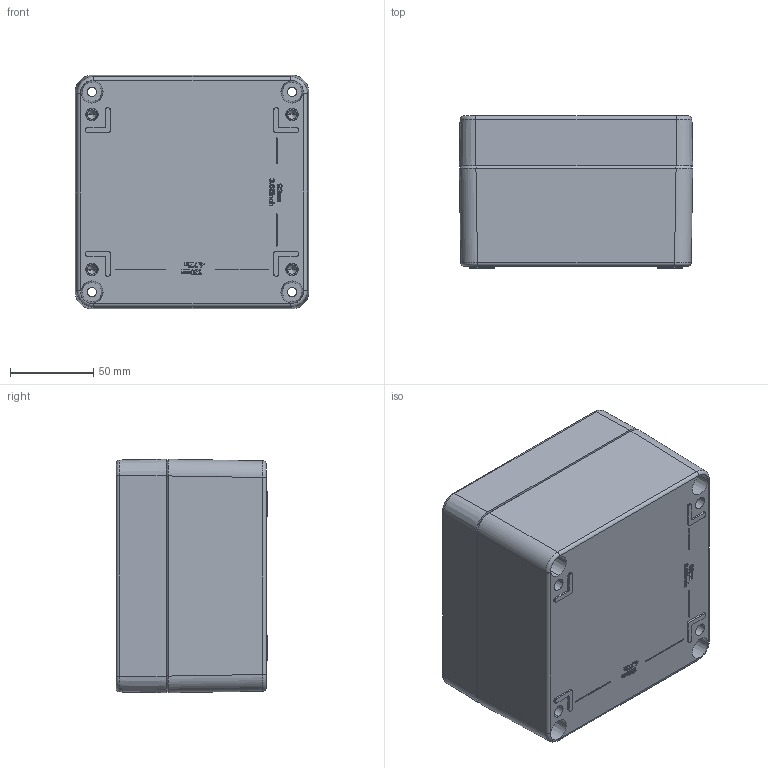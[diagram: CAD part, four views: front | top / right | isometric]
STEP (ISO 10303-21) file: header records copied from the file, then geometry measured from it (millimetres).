
FILE_DESCRIPTION (( 'STEP AP203' ), '1' );
FILE_NAME ('BB061.STEP', '2024-12-26T16:40:27', ( '' ), ( '' ), 'SwSTEP 2.0', 'SolidWorks 2019', '' );
FILE_SCHEMA (( 'CONFIG_CONTROL_DESIGN' ));
Length unit declared in the file: millimetre
Products named in the file (3): BB061; BASE_140_140_91; LID_140_140_91
Assembly tree (2 placements, depth 2):
  BB061
    BASE_140_140_91
    LID_140_140_91
Bounding box: 140 x 91 x 140 mm (x, y, z)
Volume: 469754.7 mm3; surface area: 187408.1 mm2
Topology: 2 solids, 2 shells, 1402 faces, 3748 edges, 2409 vertices
Faces by surface type: plane 940, cone 177, cylinder 162, bspline 123
Entity records: 50079 total; most frequent: CARTESIAN_POINT 15457, ORIENTED_EDGE 7440, DIRECTION 6586, EDGE_CURVE 3720, VECTOR 2892, LINE 2892, VERTEX_POINT 2409, AXIS2_PLACEMENT_3D 1847
